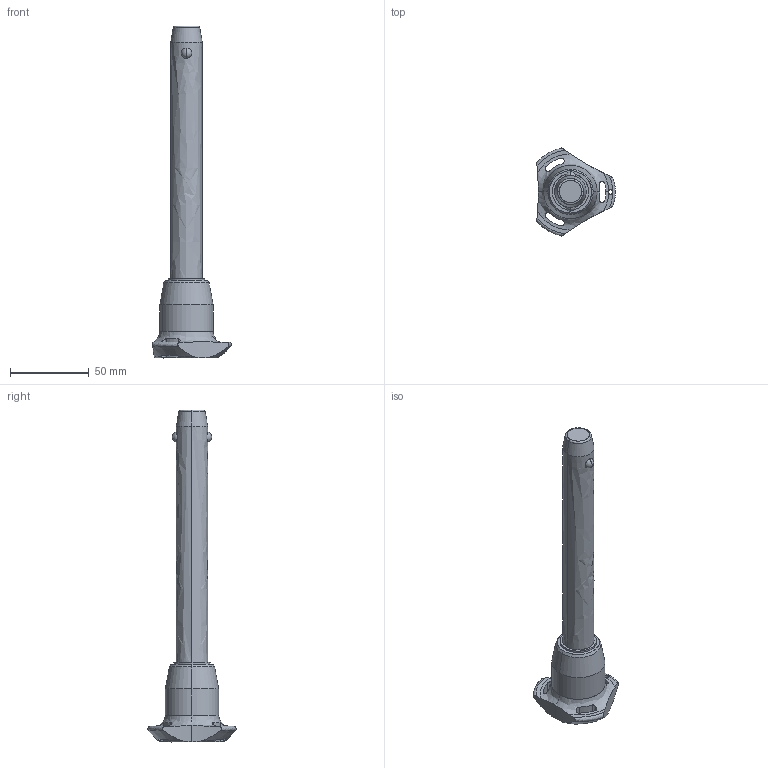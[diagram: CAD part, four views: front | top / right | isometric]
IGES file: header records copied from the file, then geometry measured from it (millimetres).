
Start section: SolidWorks IGES file using analytic representation for surfaces
Global section: file name: C:\Users\ianosborn\Desktop\QR1734_v2\QR1734_v2_20251113_IGES\QR1734.M20-140-S.igs; native system: SolidWorks 2019; preprocessor: SolidWorks 2019; author: IanOsborn; date: 251112.144328; units: millimetre
Bounding box: 50.03 x 56.02 x 211.2 mm (x, y, z)
Surface area: 19763.7 mm2 (no closed solid volume)
Topology: 0 solids, 0 shells, 65 faces, 1310 edges, 1306 vertices
Faces by surface type: revolution 50, bspline 15
